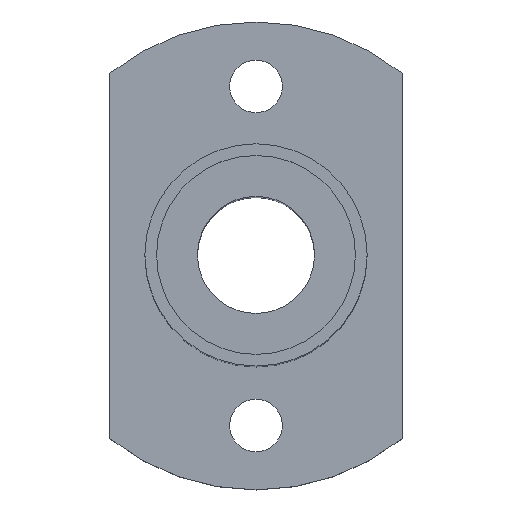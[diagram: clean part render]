
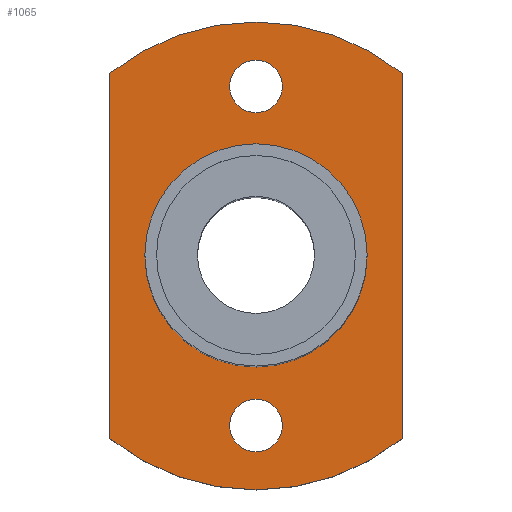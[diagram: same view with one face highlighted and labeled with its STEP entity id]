
A CAD part, top view. The second image highlights one B-rep face of the part: STEP entity #1065.
In plain terms, the highlighted planar face has unit normal (0, 0, 1).
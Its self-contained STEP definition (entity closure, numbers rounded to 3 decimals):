
#91=CARTESIAN_POINT('',(-2.,-10.383,6.0));
#92=VERTEX_POINT('',#91);
#101=CARTESIAN_POINT('',(17.,-10.383,6.));
#102=VERTEX_POINT('',#101);
#103=CARTESIAN_POINT('',(7.5,-10.383,6.));
#104=DIRECTION('',(0.0,0.0,-1.0));
#105=DIRECTION('',(-1.0,0.0,0.0));
#106=AXIS2_PLACEMENT_3D('',#103,#104,#105);
#107=CIRCLE('',#106,9.5);
#108=EDGE_CURVE('',#102,#92,#107,.T.);
#280=CARTESIAN_POINT('',(5.25,-24.883,6.));
#281=VERTEX_POINT('',#280);
#290=CARTESIAN_POINT('',(9.75,-24.883,6.));
#291=VERTEX_POINT('',#290);
#292=CARTESIAN_POINT('',(7.5,-24.883,6.));
#293=DIRECTION('',(0.0,0.0,-1.0));
#294=DIRECTION('',(-1.0,0.0,0.0));
#295=AXIS2_PLACEMENT_3D('',#292,#293,#294);
#296=CIRCLE('',#295,2.25);
#297=EDGE_CURVE('',#291,#281,#296,.T.);
#406=CARTESIAN_POINT('',(5.25,4.117,6.));
#407=VERTEX_POINT('',#406);
#416=CARTESIAN_POINT('',(9.75,4.117,6.));
#417=VERTEX_POINT('',#416);
#418=CARTESIAN_POINT('',(7.5,4.117,6.));
#419=DIRECTION('',(0.0,0.0,-1.0));
#420=DIRECTION('',(-1.0,0.0,0.0));
#421=AXIS2_PLACEMENT_3D('',#418,#419,#420);
#422=CIRCLE('',#421,2.25);
#423=EDGE_CURVE('',#417,#407,#422,.T.);
#600=CARTESIAN_POINT('',(7.5,4.117,6.));
#601=DIRECTION('',(0.0,0.0,-1.0));
#602=DIRECTION('',(-1.0,0.0,0.0));
#603=AXIS2_PLACEMENT_3D('',#600,#601,#602);
#604=CIRCLE('',#603,2.25);
#605=EDGE_CURVE('',#407,#417,#604,.T.);
#704=CARTESIAN_POINT('',(7.5,-24.883,6.));
#705=DIRECTION('',(0.0,0.0,-1.0));
#706=DIRECTION('',(-1.0,0.0,0.0));
#707=AXIS2_PLACEMENT_3D('',#704,#705,#706);
#708=CIRCLE('',#707,2.25);
#709=EDGE_CURVE('',#281,#291,#708,.T.);
#908=CARTESIAN_POINT('',(7.5,-10.383,6.));
#909=DIRECTION('',(0.0,0.0,-1.0));
#910=DIRECTION('',(-1.0,0.0,0.0));
#911=AXIS2_PLACEMENT_3D('',#908,#909,#910);
#912=CIRCLE('',#911,9.5);
#913=EDGE_CURVE('',#92,#102,#912,.T.);
#949=CARTESIAN_POINT('',(20.,-25.996,6.));
#950=VERTEX_POINT('',#949);
#951=CARTESIAN_POINT('',(-5.,-25.996,6.));
#952=VERTEX_POINT('',#951);
#953=CARTESIAN_POINT('',(7.5,-10.383,6.));
#954=DIRECTION('',(0.0,0.0,-1.0));
#955=DIRECTION('',(-0.625,-0.781,0.0));
#956=AXIS2_PLACEMENT_3D('',#953,#954,#955);
#957=CIRCLE('',#956,20.);
#958=EDGE_CURVE('',#950,#952,#957,.T.);
#981=CARTESIAN_POINT('',(-5.0,5.229,6.));
#982=VERTEX_POINT('',#981);
#983=CARTESIAN_POINT('',(-5.,-25.996,6.));
#984=DIRECTION('',(0.0,1.0,0.0));
#985=VECTOR('',#984,31.225);
#986=LINE('',#983,#985);
#987=EDGE_CURVE('',#952,#982,#986,.T.);
#1005=CARTESIAN_POINT('',(20.,5.229,6.));
#1006=VERTEX_POINT('',#1005);
#1007=CARTESIAN_POINT('',(7.5,-10.383,6.));
#1008=DIRECTION('',(0.0,0.0,-1.0));
#1009=DIRECTION('',(0.625,0.781,0.0));
#1010=AXIS2_PLACEMENT_3D('',#1007,#1008,#1009);
#1011=CIRCLE('',#1010,20.);
#1012=EDGE_CURVE('',#982,#1006,#1011,.T.);
#1030=CARTESIAN_POINT('',(20.,5.229,6.));
#1031=DIRECTION('',(0.0,-1.0,0.0));
#1032=VECTOR('',#1031,31.225);
#1033=LINE('',#1030,#1032);
#1034=EDGE_CURVE('',#1006,#950,#1033,.T.);
#1042=CARTESIAN_POINT('',(7.5,-10.383,6.));
#1043=DIRECTION('',(0.0,0.0,1.0));
#1044=DIRECTION('',(1.0,0.0,0.0));
#1045=AXIS2_PLACEMENT_3D('',#1042,#1043,#1044);
#1046=PLANE('',#1045);
#1047=ORIENTED_EDGE('',*,*,#958,.F.);
#1048=ORIENTED_EDGE('',*,*,#1034,.F.);
#1049=ORIENTED_EDGE('',*,*,#1012,.F.);
#1050=ORIENTED_EDGE('',*,*,#987,.F.);
#1051=EDGE_LOOP('',(#1047,#1048,#1049,#1050));
#1052=FACE_OUTER_BOUND('',#1051,.T.);
#1053=ORIENTED_EDGE('',*,*,#423,.T.);
#1054=ORIENTED_EDGE('',*,*,#605,.T.);
#1055=EDGE_LOOP('',(#1053,#1054));
#1056=FACE_BOUND('',#1055,.T.);
#1057=ORIENTED_EDGE('',*,*,#297,.T.);
#1058=ORIENTED_EDGE('',*,*,#709,.T.);
#1059=EDGE_LOOP('',(#1057,#1058));
#1060=FACE_BOUND('',#1059,.T.);
#1061=ORIENTED_EDGE('',*,*,#108,.T.);
#1062=ORIENTED_EDGE('',*,*,#913,.T.);
#1063=EDGE_LOOP('',(#1061,#1062));
#1064=FACE_BOUND('',#1063,.T.);
#1065=ADVANCED_FACE('',(#1052,#1056,#1060,#1064),#1046,.T.);
